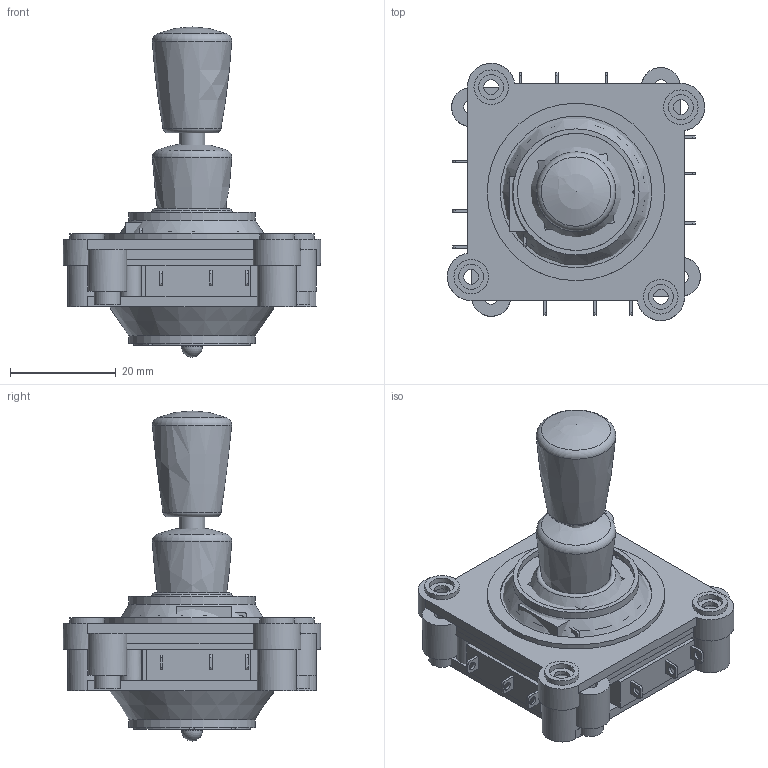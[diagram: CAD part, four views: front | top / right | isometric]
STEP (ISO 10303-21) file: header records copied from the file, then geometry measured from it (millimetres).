
FILE_DESCRIPTION( ( 'Unknown' ), '1' );
FILE_NAME( 'S:/SwitchPanels/Radek/Joysticks/1000/1V1-5F-05-34/1V1-5F-01-34.stp', 'Unknown', ( 'Unknown' ), ( 'Unknown' ), 'PSStep 14.0', 'Unknown', ' ' );
FILE_SCHEMA( ( 'AUTOMOTIVE_DESIGN { 1 0 10303 214 1 1 1 1 }' ) );
Length unit declared in the file: millimetre
Products named in the file (19): switch; Assem1; wire con; Switch; 110004-01 V4 Striker; 1000 Series Sprung Bearing Sleeve; 3000 starlock; 3000 starlock-oa0; 110010; 110018; 110029 Bezel Set Cross; 110003-01 Lower Body Moulding (Screw Mount); 110001 Upper Body Moulding (Screw Mount); 110027 Screw Mount Gaitor
Bounding box: 48.55 x 48.55 x 62.31 mm (x, y, z)
Volume: 38092.9 mm3; surface area: 40464.5 mm2
Topology: 52 solids, 52 shells, 822 faces, 1858 edges, 1240 vertices
Faces by surface type: plane 468, cylinder 290, torus 32, cone 24, sphere 6, bspline 2
Full cylindrical faces by diameter (mm): 1.6 x18, 2 x40, 2.5 x8, 2.8 x16, 3.6 x2, 3.747 x2, 4 x18, 4.7 x8, 4.8 x2, 4.95 x8, 5.1 x8, 6 x10, 6.5 x8, 6.55 x2, 6.8 x2, 7.38 x8, 9 x4, 10.8 x4, 11.2 x2, 11.45 x4, 13.7 x2, 22.1 x2, 23.8 x2, 25.6 x2, 26 x2, 28.6 x2, 33.5 x2
Entity records: 11611 total; most frequent: DIRECTION 1608, CARTESIAN_POINT 1503, ORIENTED_EDGE 1190, AXIS2_PLACEMENT_3D 656, EDGE_CURVE 595, EDGE_LOOP 552, VERTEX_POINT 463, FACE_OUTER_BOUND 435
